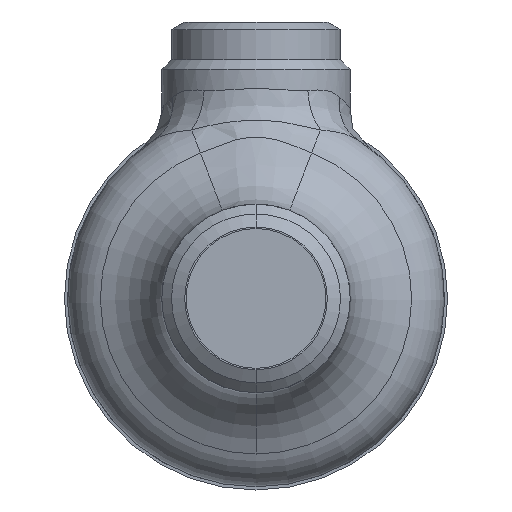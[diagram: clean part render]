
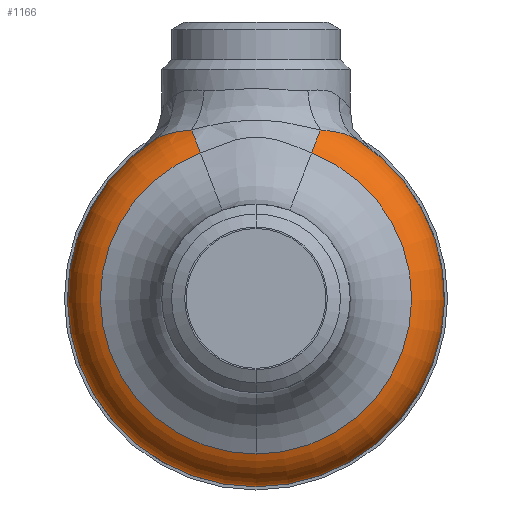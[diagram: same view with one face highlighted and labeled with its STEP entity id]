
A CAD part, front view. The second image highlights one B-rep face of the part: STEP entity #1166.
In plain terms, the highlighted toroidal (fillet/blend) face has major radius 22 mm and minor radius 8 mm.
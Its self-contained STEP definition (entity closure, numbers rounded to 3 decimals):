
#108 = ORIENTED_EDGE ( 'NONE', *, *, #10346, .F. ) ;
#470 = CARTESIAN_POINT ( 'NONE',  ( 8.849, -54.5, 23.149 ) ) ;
#471 = CARTESIAN_POINT ( 'NONE',  ( -16.155, -47., 25.279 ) ) ;
#601 = EDGE_CURVE ( 'NONE', #10283, #10324, #11722, .T. ) ;
#920 = ORIENTED_EDGE ( 'NONE', *, *, #601, .T. ) ;
#1042 = EDGE_LOOP ( 'NONE', ( #12670, #920, #108, #11551, #11062, #10419, #10317, #10276 ) ) ;
#1166 = ADVANCED_FACE ( 'NONE', ( #12000 ), #12001, .T. ) ;
#1385 = EDGE_CURVE ( 'NONE', #3478, #1998, #12149, .T. ) ;
#1998 = VERTEX_POINT ( 'NONE', #13455 ) ;
#2447 = VERTEX_POINT ( 'NONE', #13794 ) ;
#2656 = EDGE_CURVE ( 'NONE', #2447, #10283, #13959, .T. ) ;
#3478 = VERTEX_POINT ( 'NONE', #470 ) ;
#5531 = CIRCLE ( 'NONE', #5532, 30. ) ;
#5532 = AXIS2_PLACEMENT_3D ( 'NONE', #5533, #5534, #5535 ) ;
#5533 = CARTESIAN_POINT ( 'NONE',  ( 0., -47., 0. ) ) ;
#5534 = DIRECTION ( 'NONE',  ( 0., 1., 0. ) ) ;
#5535 = DIRECTION ( 'NONE',  ( 0., 0., 1. ) ) ;
#5727 = CIRCLE ( 'NONE', #5728, 8. ) ;
#5728 = AXIS2_PLACEMENT_3D ( 'NONE', #5729, #5730, #5731 ) ;
#5729 = CARTESIAN_POINT ( 'NONE',  ( 7.856, -47., 20.55 ) ) ;
#5730 = DIRECTION ( 'NONE',  ( 0.934, 0., -0.357 ) ) ;
#5731 = DIRECTION ( 'NONE',  ( 0.357, 0., 0.934 ) ) ;
#7721 = B_SPLINE_CURVE_WITH_KNOTS ( 'NONE', 3,
 ( #7722, #7723, #7724, #7725, #7726, #7727 ),
 .UNSPECIFIED., .F., .F.,
 ( 4, 2, 4 ),
 ( 0., 0.004, 0.008 ),
 .UNSPECIFIED. ) ;
#7722 = CARTESIAN_POINT ( 'NONE',  ( 16.155, -47., 25.279 ) ) ;
#7723 = CARTESIAN_POINT ( 'NONE',  ( 15.41, -47.92, 25.755 ) ) ;
#7724 = CARTESIAN_POINT ( 'NONE',  ( 14.53, -48.759, 26.086 ) ) ;
#7725 = CARTESIAN_POINT ( 'NONE',  ( 12.515, -50.238, 26.574 ) ) ;
#7726 = CARTESIAN_POINT ( 'NONE',  ( 11.417, -50.852, 26.722 ) ) ;
#7727 = CARTESIAN_POINT ( 'NONE',  ( 10.252, -51.355, 26.818 ) ) ;
#8434 = EDGE_CURVE ( 'NONE', #10232, #3478, #5727, .T. ) ;
#10232 = VERTEX_POINT ( 'NONE', #13767 ) ;
#10262 = EDGE_CURVE ( 'NONE', #1998, #2447, #14061, .T. ) ;
#10276 = ORIENTED_EDGE ( 'NONE', *, *, #10262, .T. ) ;
#10283 = VERTEX_POINT ( 'NONE', #14257 ) ;
#10317 = ORIENTED_EDGE ( 'NONE', *, *, #1385, .T. ) ;
#10324 = VERTEX_POINT ( 'NONE', #471 ) ;
#10346 = EDGE_CURVE ( 'NONE', #12602, #10324, #5531, .T. ) ;
#10419 = ORIENTED_EDGE ( 'NONE', *, *, #8434, .T. ) ;
#10706 = EDGE_CURVE ( 'NONE', #12810, #10232, #7721, .T. ) ;
#11062 = ORIENTED_EDGE ( 'NONE', *, *, #10706, .T. ) ;
#11551 = ORIENTED_EDGE ( 'NONE', *, *, #13019, .F. ) ;
#11722 = B_SPLINE_CURVE_WITH_KNOTS ( 'NONE', 3,
 ( #11723, #11724, #11725, #11727, #11728, #11729, #11730, #11731, #11732, #11733 ),
 .UNSPECIFIED., .F., .F.,
 ( 4, 2, 2, 2, 4 ),
 ( 0., 0.004, 0.005, 0.006, 0.008 ),
 .UNSPECIFIED. ) ;
#11723 = CARTESIAN_POINT ( 'NONE',  ( -10.252, -51.355, 26.818 ) ) ;
#11724 = CARTESIAN_POINT ( 'NONE',  ( -11.417, -50.852, 26.722 ) ) ;
#11725 = CARTESIAN_POINT ( 'NONE',  ( -12.51, -50.241, 26.575 ) ) ;
#11727 = CARTESIAN_POINT ( 'NONE',  ( -13.764, -49.322, 26.272 ) ) ;
#11728 = CARTESIAN_POINT ( 'NONE',  ( -14.01, -49.13, 26.205 ) ) ;
#11729 = CARTESIAN_POINT ( 'NONE',  ( -14.485, -48.733, 26.058 ) ) ;
#11730 = CARTESIAN_POINT ( 'NONE',  ( -14.714, -48.529, 25.979 ) ) ;
#11731 = CARTESIAN_POINT ( 'NONE',  ( -15.376, -47.901, 25.718 ) ) ;
#11732 = CARTESIAN_POINT ( 'NONE',  ( -15.783, -47.46, 25.517 ) ) ;
#11733 = CARTESIAN_POINT ( 'NONE',  ( -16.155, -47., 25.279 ) ) ;
#12000 = FACE_OUTER_BOUND ( 'NONE', #1042, .T. ) ;
#12001 = TOROIDAL_SURFACE ( 'NONE', #12002, 22., 8. ) ;
#12002 = AXIS2_PLACEMENT_3D ( 'NONE', #12003, #12008, #12009 ) ;
#12003 = CARTESIAN_POINT ( 'NONE',  ( 0., -47., 0. ) ) ;
#12008 = DIRECTION ( 'NONE',  ( 0., 1., 0. ) ) ;
#12009 = DIRECTION ( 'NONE',  ( 0., 0., 1. ) ) ;
#12149 = CIRCLE ( 'NONE', #12150, 24.783 ) ;
#12150 = AXIS2_PLACEMENT_3D ( 'NONE', #12151, #12152, #12153 ) ;
#12151 = CARTESIAN_POINT ( 'NONE',  ( 0., -54.5, 0. ) ) ;
#12152 = DIRECTION ( 'NONE',  ( 0., 1., 0. ) ) ;
#12153 = DIRECTION ( 'NONE',  ( 0., 0., 1. ) ) ;
#12602 = VERTEX_POINT ( 'NONE', #13640 ) ;
#12670 = ORIENTED_EDGE ( 'NONE', *, *, #2656, .T. ) ;
#12810 = VERTEX_POINT ( 'NONE', #13836 ) ;
#13019 = EDGE_CURVE ( 'NONE', #12810, #12602, #13997, .T. ) ;
#13455 = CARTESIAN_POINT ( 'NONE',  ( 0., -54.5, -24.783 ) ) ;
#13640 = CARTESIAN_POINT ( 'NONE',  ( 0., -47., -30. ) ) ;
#13767 = CARTESIAN_POINT ( 'NONE',  ( 10.252, -51.355, 26.818 ) ) ;
#13794 = CARTESIAN_POINT ( 'NONE',  ( -8.849, -54.5, 23.149 ) ) ;
#13836 = CARTESIAN_POINT ( 'NONE',  ( 16.155, -47., 25.279 ) ) ;
#13959 = CIRCLE ( 'NONE', #13960, 8. ) ;
#13960 = AXIS2_PLACEMENT_3D ( 'NONE', #13961, #13962, #13963 ) ;
#13961 = CARTESIAN_POINT ( 'NONE',  ( -7.856, -47., 20.55 ) ) ;
#13962 = DIRECTION ( 'NONE',  ( -0.934, 0., -0.357 ) ) ;
#13963 = DIRECTION ( 'NONE',  ( -0.357, 0., 0.934 ) ) ;
#13997 = CIRCLE ( 'NONE', #13998, 30. ) ;
#13998 = AXIS2_PLACEMENT_3D ( 'NONE', #13999, #14000, #14001 ) ;
#13999 = CARTESIAN_POINT ( 'NONE',  ( 0., -47., 0. ) ) ;
#14000 = DIRECTION ( 'NONE',  ( 0., 1., 0. ) ) ;
#14001 = DIRECTION ( 'NONE',  ( 0., 0., 1. ) ) ;
#14061 = CIRCLE ( 'NONE', #14062, 24.783 ) ;
#14062 = AXIS2_PLACEMENT_3D ( 'NONE', #14063, #14064, #14065 ) ;
#14063 = CARTESIAN_POINT ( 'NONE',  ( 0., -54.5, 0. ) ) ;
#14064 = DIRECTION ( 'NONE',  ( 0., 1., 0. ) ) ;
#14065 = DIRECTION ( 'NONE',  ( 0., 0., 1. ) ) ;
#14257 = CARTESIAN_POINT ( 'NONE',  ( -10.252, -51.355, 26.818 ) ) ;
